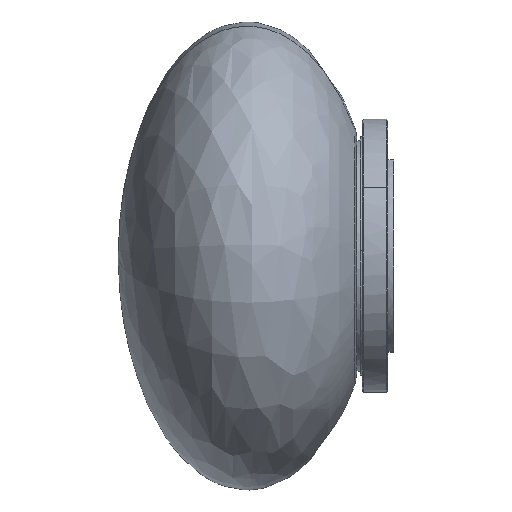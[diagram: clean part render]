
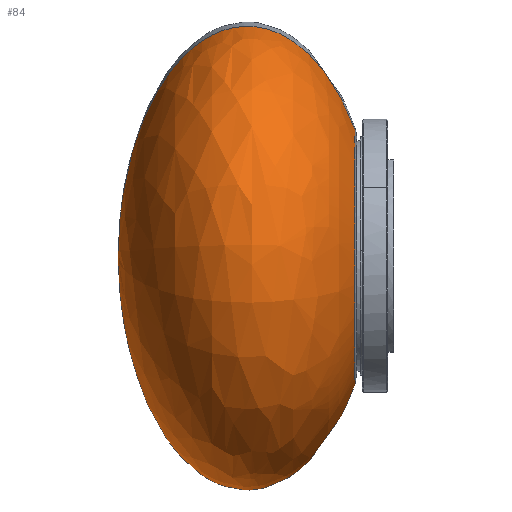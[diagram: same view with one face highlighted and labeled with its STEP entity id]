
A CAD part, left-side view. The second image highlights one B-rep face of the part: STEP entity #84.
In plain terms, the highlighted free-form (B-spline) face has degree [2, 2] with [5, 5] control points.
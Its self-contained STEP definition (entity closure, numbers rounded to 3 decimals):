
#84=ADVANCED_FACE('',(#152),#853,.T.);
#152=FACE_OUTER_BOUND('',#218,.T.);
#218=EDGE_LOOP('',(#432,#433,#434));
#432=ORIENTED_EDGE('',*,*,#599,.T.);
#433=ORIENTED_EDGE('',*,*,#584,.F.);
#434=ORIENTED_EDGE('',*,*,#582,.T.);
#582=EDGE_CURVE('',#800,#813,#648,.T.);
#584=EDGE_CURVE('',#800,#801,#723,.T.);
#599=EDGE_CURVE('',#813,#801,#731,.T.);
#648=B_SPLINE_CURVE_WITH_KNOTS('',3,(#2500,#2501,#2502,#2503,#2504,#2505,
#2506,#2507,#2508,#2509,#2510),.UNSPECIFIED.,.F.,.F.,(4,1,1,1,1,1,1,1,4),
(-211.998,-196.855,-181.713,-161.522,
-151.427,-141.332,-131.237,-121.142,
-106.),.UNSPECIFIED.);
#723=(
BOUNDED_CURVE()
B_SPLINE_CURVE(2,(#2514,#2515,#2516,#2517,#2518),.UNSPECIFIED.,.F.,.F.)
B_SPLINE_CURVE_WITH_KNOTS((3,2,3),(1.869,60.952,179.217),
 .UNSPECIFIED.)
CURVE()
GEOMETRIC_REPRESENTATION_ITEM()
RATIONAL_B_SPLINE_CURVE((1.,0.88,1.,0.707,1.))
REPRESENTATION_ITEM('')
);
#731=(
BOUNDED_CURVE()
B_SPLINE_CURVE(2,(#2634,#2635,#2636,#2637,#2638),.UNSPECIFIED.,.F.,.F.)
B_SPLINE_CURVE_WITH_KNOTS((3,2,3),(1.868,89.608,179.217),
 .UNSPECIFIED.)
CURVE()
GEOMETRIC_REPRESENTATION_ITEM()
RATIONAL_B_SPLINE_CURVE((1.,0.806,1.,0.799,1.))
REPRESENTATION_ITEM('')
);
#800=VERTEX_POINT('',#2470);
#801=VERTEX_POINT('',#2471);
#813=VERTEX_POINT('',#2483);
#853=(
BOUNDED_SURFACE()
B_SPLINE_SURFACE(2,2,((#1843,#1844,#1845,#1846,#1847),(#1848,#1849,#1850,
#1851,#1852),(#1853,#1854,#1855,#1856,#1857),(#1858,#1859,#1860,#1861,#1862),
(#1863,#1864,#1865,#1866,#1867)),.UNSPECIFIED.,.F.,.F.,.F.)
B_SPLINE_SURFACE_WITH_KNOTS((3,2,3),(3,2,3),(0.,89.608,179.217),
(280.53,420.794,561.059),.UNSPECIFIED.)
GEOMETRIC_REPRESENTATION_ITEM()
RATIONAL_B_SPLINE_SURFACE(((1.,0.707,1.,0.707,1.),
(0.799,0.565,0.799,0.565,
0.799),(1.,0.707,1.,0.707,1.),(0.799,
0.565,0.799,0.565,0.799),
(1.,0.707,1.,0.707,1.)))
REPRESENTATION_ITEM('')
SURFACE()
);
#1843=CARTESIAN_POINT('',(0.,28.,-31.753));
#1844=CARTESIAN_POINT('',(-31.753,28.,-31.753));
#1845=CARTESIAN_POINT('',(-31.753,28.,0.));
#1846=CARTESIAN_POINT('',(-31.753,28.,31.753));
#1847=CARTESIAN_POINT('',(0.,28.,31.753));
#1848=CARTESIAN_POINT('',(0.,14.834,-70.132));
#1849=CARTESIAN_POINT('',(-70.132,14.834,-70.132));
#1850=CARTESIAN_POINT('',(-70.132,14.834,0.));
#1851=CARTESIAN_POINT('',(-70.132,14.834,70.132));
#1852=CARTESIAN_POINT('',(0.,14.834,70.132));
#1853=CARTESIAN_POINT('',(0.,-9.083,-57.683));
#1854=CARTESIAN_POINT('',(-57.683,-9.083,-57.683));
#1855=CARTESIAN_POINT('',(-57.683,-9.083,0.));
#1856=CARTESIAN_POINT('',(-57.683,-9.083,57.683));
#1857=CARTESIAN_POINT('',(0.,-9.083,57.683));
#1858=CARTESIAN_POINT('',(0.,-33.,-45.233));
#1859=CARTESIAN_POINT('',(-45.233,-33.,-45.233));
#1860=CARTESIAN_POINT('',(-45.233,-33.,0.));
#1861=CARTESIAN_POINT('',(-45.233,-33.,45.233));
#1862=CARTESIAN_POINT('',(0.,-33.,45.233));
#1863=CARTESIAN_POINT('',(0.,-33.,0.));
#1864=CARTESIAN_POINT('',(0.,-33.,0.));
#1865=CARTESIAN_POINT('',(0.,-33.,0.));
#1866=CARTESIAN_POINT('',(0.,-33.,0.));
#1867=CARTESIAN_POINT('',(0.,-33.,0.));
#2470=CARTESIAN_POINT('',(0.,27.551,33.027));
#2471=CARTESIAN_POINT('',(0.,-33.,0.));
#2483=CARTESIAN_POINT('',(0.,27.551,-33.026));
#2500=CARTESIAN_POINT('',(0.,27.551,33.027));
#2501=CARTESIAN_POINT('',(-4.941,27.551,33.027));
#2502=CARTESIAN_POINT('',(-14.809,27.551,30.771));
#2503=CARTESIAN_POINT('',(-28.044,27.551,20.248));
#2504=CARTESIAN_POINT('',(-33.702,27.551,5.834));
#2505=CARTESIAN_POINT('',(-32.675,27.551,-7.461));
#2506=CARTESIAN_POINT('',(-29.036,27.551,-16.763));
#2507=CARTESIAN_POINT('',(-22.799,27.551,-24.57));
#2508=CARTESIAN_POINT('',(-13.173,27.551,-31.156));
#2509=CARTESIAN_POINT('',(-4.939,27.551,-33.016));
#2510=CARTESIAN_POINT('',(0.,27.551,-33.026));
#2514=CARTESIAN_POINT('',(0.,27.551,33.027));
#2515=CARTESIAN_POINT('',(0.,17.77,60.));
#2516=CARTESIAN_POINT('',(0.,0.,60.));
#2517=CARTESIAN_POINT('',(0.,-33.,60.));
#2518=CARTESIAN_POINT('',(0.,-33.,0.));
#2634=CARTESIAN_POINT('',(0.,27.551,-33.026));
#2635=CARTESIAN_POINT('',(0.,14.213,-69.809));
#2636=CARTESIAN_POINT('',(0.,-9.083,-57.683));
#2637=CARTESIAN_POINT('',(0.,-33.,-45.233));
#2638=CARTESIAN_POINT('',(0.,-33.,0.));
